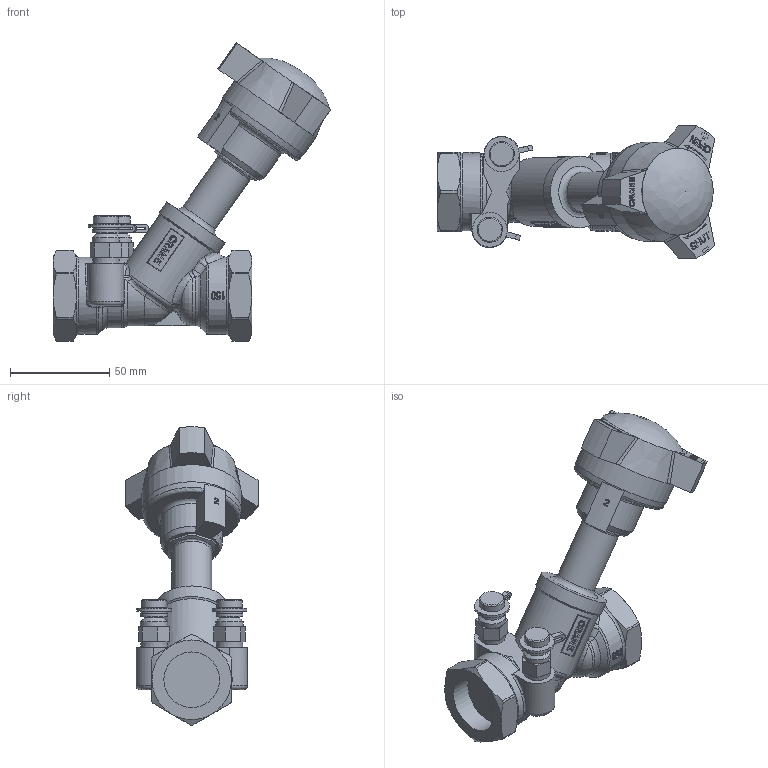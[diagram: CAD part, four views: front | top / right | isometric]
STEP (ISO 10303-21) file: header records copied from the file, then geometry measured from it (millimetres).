
FILE_DESCRIPTION((''),'2;1');
FILE_NAME('P:\Fastrack\53972_CRANE 3D\Workspace\CRANE\D931_1in\D931_1in.stp','2011-03-04T15:04:10',('btaylor'),(''),'Autodesk Inventor 2008','Autodesk Inventor 2008','');
FILE_SCHEMA(('AUTOMOTIVE_DESIGN { 1 0 10303 214 1 1 1 1 }'));
Length unit declared in the file: millimetre
Products named in the file (1): D931_1in
Bounding box: 139.7 x 66.44 x 149.98 mm (x, y, z)
Volume: 231345.3 mm3; surface area: 38492.6 mm2
Topology: 1 solids, 1 shells, 800 faces, 2142 edges, 1402 vertices
Faces by surface type: plane 333, bspline 331, cylinder 85, cone 39, torus 10, sphere 2
Full cylindrical faces by diameter (mm): 7.4 x2, 11 x2, 12.7 x2, 13.7 x2, 20 x1, 36 x1, 39 x2, 50 x1
Entity records: 73240 total; most frequent: CARTESIAN_POINT 55090, ORIENTED_EDGE 4166, DIRECTION 2502, EDGE_CURVE 2083, VERTEX_POINT 1377, VECTOR 984, LINE 984, EDGE_LOOP 894
